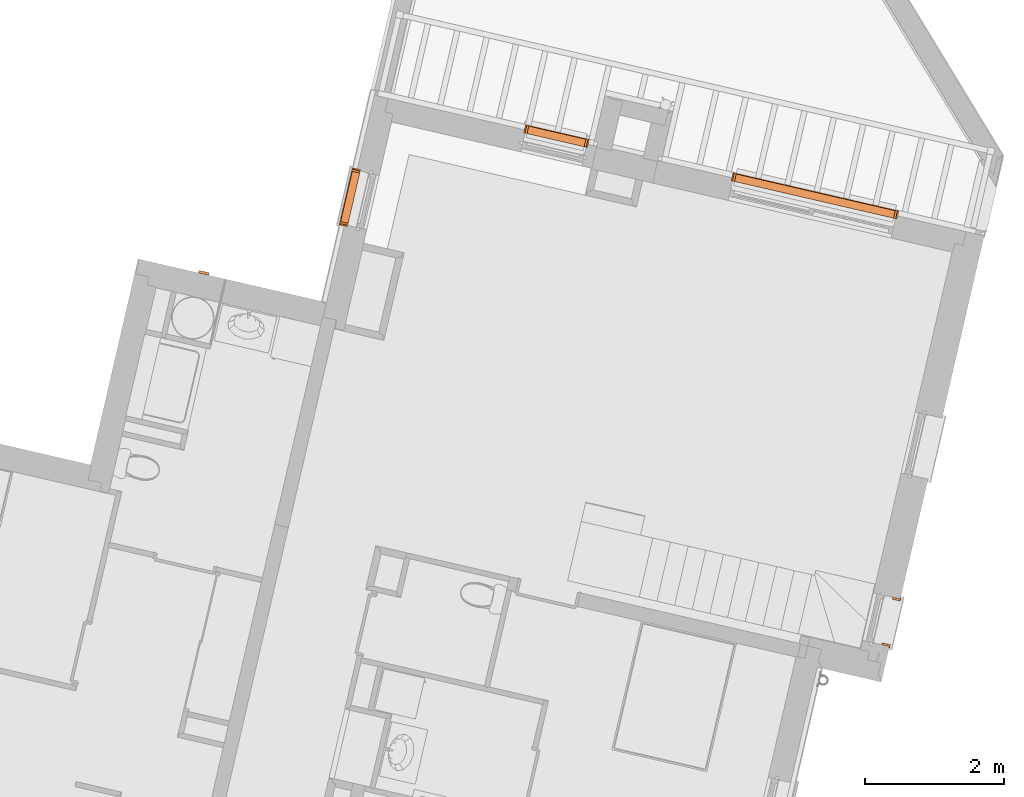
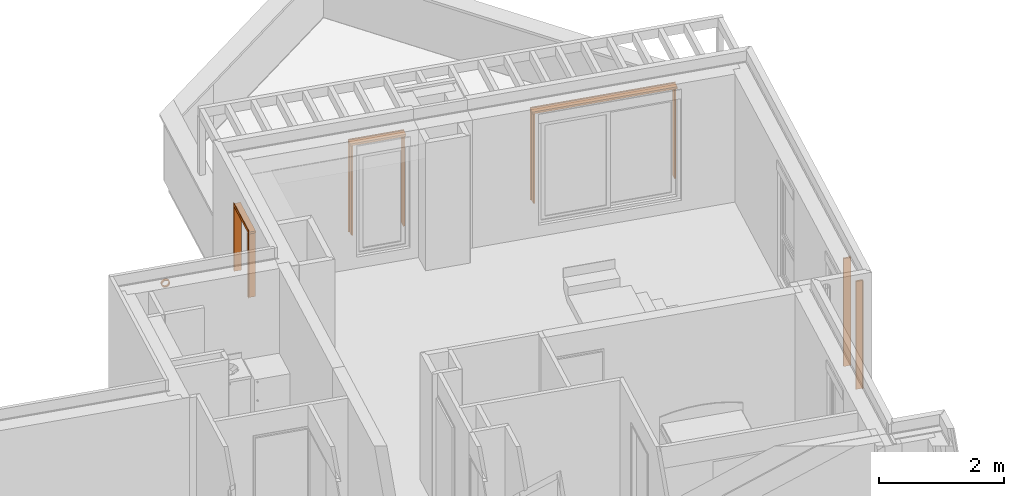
# One storey, part 58 of 62: 12 proxies.
"""IFC2X3 building model written with IfcOpenShell, lengths in metres."""

from ifc_helpers import new_model, entity, si_unit, converted_unit, derived_unit, money_unit, direction, frame, origin_with_axes, place, context, subcontext, project, spatial, faceted_brep, source, transform, mapped, material, type_object, element, save


model = new_model("IFC2X3")

# Units and contexts
model_context = context("Model", 3, precision=1e-05, world=origin_with_axes(), true_north=direction((0.0, 1.0)))
body_context = subcontext(model_context, "Body", "Model", "MODEL_VIEW")
ifc_project = project(units=[si_unit("LENGTHUNIT", "METRE"), si_unit("AREAUNIT", "SQUARE_METRE"), si_unit("VOLUMEUNIT", "CUBIC_METRE"), converted_unit("PLANEANGLEUNIT", "DEGREE", entity("IfcPlaneAngleMeasure", 0.0174532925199), si_unit("PLANEANGLEUNIT", "RADIAN"), dimensions=[0, 0, 0, 0, 0, 0, 0]), si_unit("SOLIDANGLEUNIT", "STERADIAN"), money_unit("EUR"), converted_unit("TIMEUNIT", "Year", entity("IfcTimeMeasure", 31556926.0), si_unit("TIMEUNIT", "SECOND"), dimensions=[0, 0, 1, 0, 0, 0, 0]), si_unit("MASSUNIT", "GRAM", prefix="KILO"), si_unit("THERMODYNAMICTEMPERATUREUNIT", "DEGREE_CELSIUS"), si_unit("LUMINOUSINTENSITYUNIT", "LUMEN"), si_unit("ENERGYUNIT", "JOULE", prefix="MEGA"), derived_unit("THERMALCONDUCTANCEUNIT", [(si_unit("POWERUNIT", "WATT"), 1), (si_unit("LENGTHUNIT", "METRE"), -1), (si_unit("THERMODYNAMICTEMPERATUREUNIT", "KELVIN"), -1)]), derived_unit("SPECIFICHEATCAPACITYUNIT", [(si_unit("ENERGYUNIT", "JOULE"), 1), (si_unit("MASSUNIT", "GRAM", prefix="KILO"), -1), (si_unit("THERMODYNAMICTEMPERATUREUNIT", "KELVIN"), -1)]), derived_unit("MASSDENSITYUNIT", [(si_unit("MASSUNIT", "GRAM", prefix="KILO"), 1), (si_unit("VOLUMEUNIT", "CUBIC_METRE"), -1)])], contexts=[model_context])

# Site, building, storey
site_placement = place(None, origin_with_axes())
site = spatial("IfcSite", under=ifc_project, at=site_placement, Name="Site", CompositionType="ELEMENT")
building_placement = place(site_placement, origin_with_axes())
building = spatial("IfcBuilding", under=site, at=building_placement, Name="Bâtiment", CompositionType="ELEMENT")
storey_placement = place(building_placement, frame((0.0, 0.0, 8.16), z_axis=(0.0, 0.0, 1.0), x_axis=(1.0, 0.0, 0.0)))
storey = spatial("IfcBuildingStorey", under=building, at=storey_placement, Name="R+3", CompositionType="ELEMENT", Elevation=8.16)

# Proxies
building_element_proxy_type_1 = type_object("IfcBuildingElementProxyType", Name="Tube évidé 23", PredefinedType="NOTDEFINED")
shared_shape_1 = source(origin_with_axes(), body_context, "Body", "Brep", [
    faceted_brep([(0.0, 0.0, -0.075), (0.0, 0.0194114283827, -0.0724444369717), (0.0, 0.0375, -0.0649519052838), (0.0, 0.053033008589, -0.053033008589), (0.0, 0.0649519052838, -0.0375), (0.0, 0.0724444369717, -0.0194114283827), (0.0, 0.075, 0.0), (0.0, 0.0724444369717, 0.0194114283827), (0.0, 0.0649519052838, 0.0375), (0.0, 0.053033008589, 0.053033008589), (0.0, 0.0375, 0.0649519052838), (0.0, 0.0194114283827, 0.0724444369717), (0.0, 0.0, 0.075), (0.0, -0.0194114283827, 0.0724444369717), (0.0, -0.0375, 0.0649519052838), (0.0, -0.053033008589, 0.053033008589), (0.0, -0.0649519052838, 0.0375), (0.0, -0.0724444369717, 0.0194114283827), (0.0, -0.075, 0.0), (0.0, -0.0724444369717, -0.0194114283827), (0.0, -0.0649519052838, -0.0375), (0.0, -0.053033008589, -0.053033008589), (0.0, -0.0375, -0.0649519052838), (0.0, -0.0194114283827, -0.0724444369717), (0.0, -0.0275, -0.0476313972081), (0.0, -0.0388908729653, -0.0388908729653), (0.0, -0.0476313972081, -0.0275), (0.0, -0.0531259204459, -0.0142350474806), (0.0, -0.055, 0.0), (0.0, -0.0531259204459, 0.0142350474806), (0.0, -0.0476313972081, 0.0275), (0.0, -0.0388908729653, 0.0388908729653), (0.0, -0.0275, 0.0476313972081), (0.0, -0.0142350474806, 0.0531259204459), (0.0, 0.0, 0.055), (0.0, 0.0142350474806, 0.0531259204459), (0.0, 0.0275, 0.0476313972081), (0.0, 0.0388908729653, 0.0388908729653), (0.0, 0.0476313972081, 0.0275), (0.0, 0.0531259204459, 0.0142350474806), (0.0, 0.055, 0.0), (0.0, 0.0531259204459, -0.0142350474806), (0.0, 0.0476313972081, -0.0275), (0.0, 0.0388908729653, -0.0388908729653), (0.0, 0.0275, -0.0476313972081), (0.0, 0.0142350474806, -0.0531259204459), (0.0, 0.0, -0.055), (0.0, -0.0142350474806, -0.0531259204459), (-0.0368596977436, 0.0, -0.075), (-0.0368596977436, 0.0194114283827, -0.0724444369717), (-0.0368596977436, 0.0375, -0.0649519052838), (-0.0368596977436, 0.053033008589, -0.053033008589), (-0.0368596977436, 0.0649519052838, -0.0375), (-0.0368596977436, 0.0724444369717, -0.0194114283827), (-0.0368596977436, 0.075, 0.0), (-0.0368596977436, 0.0724444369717, 0.0194114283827), (-0.0368596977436, 0.0649519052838, 0.0375), (-0.0368596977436, 0.053033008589, 0.053033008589), (-0.0368596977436, 0.0375, 0.0649519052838), (-0.0368596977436, 0.0194114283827, 0.0724444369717), (-0.0368596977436, 0.0, 0.075), (-0.0368596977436, -0.0194114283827, 0.0724444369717), (-0.0368596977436, -0.0375, 0.0649519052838), (-0.0368596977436, -0.053033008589, 0.053033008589), (-0.0368596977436, -0.0649519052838, 0.0375), (-0.0368596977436, -0.0724444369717, 0.0194114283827), (-0.0368596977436, -0.075, 0.0), (-0.0368596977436, -0.0724444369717, -0.0194114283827), (-0.0368596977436, -0.0649519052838, -0.0375), (-0.0368596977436, -0.053033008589, -0.053033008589), (-0.0368596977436, -0.0375, -0.0649519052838), (-0.0368596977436, -0.0194114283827, -0.0724444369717), (-0.0368596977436, -0.0388908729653, -0.0388908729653), (-0.0368596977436, -0.0275, -0.0476313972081), (-0.0368596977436, -0.0476313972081, -0.0275), (-0.0368596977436, -0.0531259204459, -0.0142350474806), (-0.0368596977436, -0.055, 0.0), (-0.0368596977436, -0.0531259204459, 0.0142350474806), (-0.0368596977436, -0.0476313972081, 0.0275), (-0.0368596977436, -0.0388908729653, 0.0388908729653), (-0.0368596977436, -0.0275, 0.0476313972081), (-0.0368596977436, -0.0142350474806, 0.0531259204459), (-0.0368596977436, 0.0, 0.055), (-0.0368596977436, 0.0142350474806, 0.0531259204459), (-0.0368596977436, 0.0275, 0.0476313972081), (-0.0368596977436, 0.0388908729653, 0.0388908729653), (-0.0368596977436, 0.0476313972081, 0.0275), (-0.0368596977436, 0.0531259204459, 0.0142350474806), (-0.0368596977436, 0.055, 0.0), (-0.0368596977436, 0.0531259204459, -0.0142350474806), (-0.0368596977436, 0.0476313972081, -0.0275), (-0.0368596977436, 0.0388908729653, -0.0388908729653), (-0.0368596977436, 0.0275, -0.0476313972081), (-0.0368596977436, 0.0142350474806, -0.0531259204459), (-0.0368596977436, 0.0, -0.055), (-0.0368596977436, -0.0142350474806, -0.0531259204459)], [[[0, 1, 2, 3, 4, 5, 6, 7, 8, 9, 10, 11, 12, 13, 14, 15, 16, 17, 18, 19, 20, 21, 22, 23], [24, 25, 26, 27, 28, 29, 30, 31, 32, 33, 34, 35, 36, 37, 38, 39, 40, 41, 42, 43, 44, 45, 46, 47]], [[48, 49, 1, 0]], [[49, 50, 2, 1]], [[50, 51, 3, 2]], [[51, 52, 4, 3]], [[52, 53, 5, 4]], [[53, 54, 6, 5]], [[54, 55, 7, 6]], [[55, 56, 8, 7]], [[56, 57, 9, 8]], [[57, 58, 10, 9]], [[58, 59, 11, 10]], [[59, 60, 12, 11]], [[60, 61, 13, 12]], [[61, 62, 14, 13]], [[62, 63, 15, 14]], [[63, 64, 16, 15]], [[64, 65, 17, 16]], [[65, 66, 18, 17]], [[66, 67, 19, 18]], [[67, 68, 20, 19]], [[68, 69, 21, 20]], [[69, 70, 22, 21]], [[70, 71, 23, 22]], [[71, 48, 0, 23]], [[72, 25, 24, 73]], [[74, 26, 25, 72]], [[75, 27, 26, 74]], [[76, 28, 27, 75]], [[77, 29, 28, 76]], [[78, 30, 29, 77]], [[79, 31, 30, 78]], [[80, 32, 31, 79]], [[81, 33, 32, 80]], [[82, 34, 33, 81]], [[83, 35, 34, 82]], [[84, 36, 35, 83]], [[85, 37, 36, 84]], [[86, 38, 37, 85]], [[87, 39, 38, 86]], [[88, 40, 39, 87]], [[89, 41, 40, 88]], [[90, 42, 41, 89]], [[91, 43, 42, 90]], [[92, 44, 43, 91]], [[93, 45, 44, 92]], [[94, 46, 45, 93]], [[95, 47, 46, 94]], [[73, 24, 47, 95]], [[70, 69, 68, 67, 66, 65, 64, 63, 62, 61, 60, 59, 58, 57, 56, 55, 54, 53, 52, 51, 50, 49, 48, 71], [92, 91, 90, 89, 88, 87, 86, 85, 84, 83, 82, 81, 80, 79, 78, 77, 76, 75, 74, 72, 73, 95, 94, 93]]]),
])
proxy_1_placement = place(storey_placement, frame((-9.94778968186, 12.2079923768, 2.35), z_axis=(0.0, 0.0, 1.0), x_axis=(-0.224876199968, -0.974387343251, 0.0)))
element("IfcBuildingElementProxy", 1, at=proxy_1_placement, inside=storey, type_object=building_element_proxy_type_1, Name="MOB-003", context=body_context, shape_type="MappedRepresentation", body=[
    mapped(shared_shape_1, transform((0.0, 0.0, 0.0))),
])
ifc_material = material(Name="Volume - Etude")
building_element_proxy_type_2 = type_object("IfcBuildingElementProxyType", Name="Volume - Etude", PredefinedType="NOTDEFINED")
shared_shape_2 = source(origin_with_axes(), body_context, "Body", "Brep", [
    faceted_brep([(-0.0774534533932, -0.0178752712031, -0.780796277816), (-0.0774534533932, -0.0178752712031, 0.974203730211), (-0.07070717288, -0.047106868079, 0.974203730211), (-0.07070717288, -0.047106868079, -0.780796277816), (-0.185133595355, -0.0427264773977, -0.780796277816), (-0.185133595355, -0.0427264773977, 0.974203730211), (-0.189631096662, -0.023238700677, 0.974203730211), (-0.199337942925, -0.0254789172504, 0.974203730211), (-0.188094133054, -0.0741982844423, 0.974203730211), (-0.188094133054, -0.0741982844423, -0.780796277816), (-0.199337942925, -0.0254789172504, -0.780796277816), (-0.189631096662, -0.023238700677, -0.780796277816)], [[[0, 1, 2, 3]], [[0, 4, 5, 1]], [[1, 5, 6, 7, 8, 2]], [[2, 8, 9, 3]], [[3, 9, 10, 11, 4, 0]], [[5, 4, 11, 6]], [[11, 10, 7, 6]], [[8, 7, 10, 9]]]),
])
for number, where, z_axis, x_axis, name in (
    (2, (-4.47991190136, 13.9485500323, 1.23579627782), (0.0, 0.0, 1.0), (-0.438232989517, -0.89886141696, 0.0), "Forme-009"),
    (3, (-0.0437657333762, 12.9247439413, 1.23579627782), (0.0, 0.0, 1.0), (-0.438233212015, -0.898861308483, 0.0), "Forme-009"),
):
    element("IfcBuildingElementProxy", number, at=place(storey_placement, frame(where, z_axis=z_axis, x_axis=x_axis)), inside=storey, type_object=building_element_proxy_type_2, material=ifc_material, Name=name, context=body_context, shape_type="MappedRepresentation", body=[
        mapped(shared_shape_2, transform((0.0, 0.0, 0.0))),
    ])
shared_shape_3 = source(origin_with_axes(), body_context, "Body", "Brep", [
    faceted_brep([(0.0774534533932, -0.0178752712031, -0.780796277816), (0.07070717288, -0.047106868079, -0.780796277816), (0.07070717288, -0.047106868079, 0.974203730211), (0.0774534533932, -0.0178752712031, 0.974203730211), (0.185133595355, -0.0427264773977, -0.780796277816), (0.189631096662, -0.023238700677, -0.780796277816), (0.199337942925, -0.0254789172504, -0.780796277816), (0.188094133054, -0.0741982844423, -0.780796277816), (0.188094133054, -0.0741982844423, 0.974203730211), (0.199337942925, -0.0254789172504, 0.974203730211), (0.189631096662, -0.023238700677, 0.974203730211), (0.185133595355, -0.0427264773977, 0.974203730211)], [[[0, 1, 2, 3]], [[1, 0, 4, 5, 6, 7]], [[2, 1, 7, 8]], [[3, 2, 8, 9, 10, 11]], [[0, 3, 11, 4]], [[11, 10, 5, 4]], [[5, 10, 9, 6]], [[8, 7, 6, 9]]]),
])
for number, where, z_axis, x_axis, name in (
    (4, (-5.35686052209, 14.1509385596, 1.23579627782), (0.0, 0.0, 1.0), (-5.77208540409e-08, 1.0, 0.0), "Forme-009"),
    (5, (-2.38229525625, 13.4644472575, 1.23579627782), (0.0, 0.0, 1.0), (1.89812221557e-07, 1.0, 0.0), "Forme-009"),
):
    element("IfcBuildingElementProxy", number, at=place(storey_placement, frame(where, z_axis=z_axis, x_axis=x_axis)), inside=storey, type_object=building_element_proxy_type_2, material=ifc_material, Name=name, context=body_context, shape_type="MappedRepresentation", body=[
        mapped(shared_shape_3, transform((0.0, 0.0, 0.0))),
    ])
shared_shape_4 = source(origin_with_axes(), body_context, "Body", "Brep", [
    faceted_brep([(0.0774534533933, -0.0178752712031, -1.14206550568), (0.07070717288, -0.047106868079, -1.14206550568), (0.07070717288, -0.047106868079, 0.974203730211), (0.0774534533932, -0.0178752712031, 0.974203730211), (0.185133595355, -0.0427264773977, -1.14206550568), (0.189631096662, -0.023238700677, -1.14206550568), (0.199337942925, -0.0254789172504, -1.14206550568), (0.188094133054, -0.0741982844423, -1.14206550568), (0.188094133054, -0.0741982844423, 0.974203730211), (0.199337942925, -0.0254789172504, 0.974203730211), (0.189631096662, -0.023238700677, 0.974203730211), (0.185133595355, -0.0427264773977, 0.974203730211)], [[[0, 1, 2, 3]], [[1, 0, 4, 5, 6, 7]], [[2, 1, 7, 8]], [[3, 2, 8, 9, 10, 11]], [[0, 3, 11, 4]], [[11, 10, 5, 4]], [[5, 10, 9, 6]], [[8, 7, 6, 9]]]),
])
proxy_2_placement = place(storey_placement, frame((-0.143039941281, 7.59270478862, 1.23579627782), z_axis=(0.0, 0.0, 1.0), x_axis=(1.0, -2.98956044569e-09, 0.0)))
element("IfcBuildingElementProxy", 6, at=proxy_2_placement, inside=storey, type_object=building_element_proxy_type_2, material=ifc_material, Name="Forme-009", context=body_context, shape_type="MappedRepresentation", body=[
    mapped(shared_shape_4, transform((0.0, 0.0, 0.0))),
])
shared_shape_5 = source(origin_with_axes(), body_context, "Body", "Brep", [
    faceted_brep([(-0.199337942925, -0.0254789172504, -1.14206550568), (-0.188094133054, -0.0741982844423, -1.14206550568), (-0.188094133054, -0.0741982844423, 0.974203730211), (-0.199337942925, -0.0254789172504, 0.974203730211), (-0.189631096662, -0.023238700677, -1.14206550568), (-0.185133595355, -0.0427264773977, -1.14206550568), (-0.0774534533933, -0.0178752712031, -1.14206550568), (-0.07070717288, -0.047106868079, -1.14206550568), (-0.07070717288, -0.047106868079, 0.974203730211), (-0.0774534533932, -0.0178752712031, 0.974203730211), (-0.185133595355, -0.0427264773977, 0.974203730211), (-0.189631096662, -0.023238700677, 0.974203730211)], [[[0, 1, 2, 3]], [[1, 0, 4, 5, 6, 7]], [[1, 7, 8, 2]], [[3, 2, 8, 9, 10, 11]], [[4, 0, 3, 11]], [[4, 11, 10, 5]], [[10, 9, 6, 5]], [[6, 9, 8, 7]]]),
])
proxy_3_placement = place(storey_placement, frame((-0.300453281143, 6.91063364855, 1.23579627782), z_axis=(0.0, 0.0, 1.0), x_axis=(-0.898861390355, 0.438233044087, 0.0)))
element("IfcBuildingElementProxy", 7, at=proxy_3_placement, inside=storey, type_object=building_element_proxy_type_2, material=ifc_material, Name="Forme-009", context=body_context, shape_type="MappedRepresentation", body=[
    mapped(shared_shape_5, transform((0.0, 0.0, 0.0))),
])
shared_shape_6 = source(origin_with_axes(), body_context, "Body", "Brep", [
    faceted_brep([(0.00728521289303, -0.504161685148, 0.0200000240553), (-0.00242163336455, -0.501921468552, 0.0200000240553), (-0.00242160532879, -0.501921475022, 0.0), (-0.110101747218, -0.477070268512, 0.0), (-0.110101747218, -0.477070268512, -0.0399999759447), (0.00728521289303, -0.504161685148, -0.0399999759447), (0.555983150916, 1.87334347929, 0.0200000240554), (0.546276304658, 1.87558369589, 0.0200000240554), (0.546276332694, 1.87558368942, 0.0), (0.438596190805, 1.90043489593, 0.0), (0.438596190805, 1.90043489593, -0.0399999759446), (0.555983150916, 1.87334347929, -0.0399999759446)], [[[0, 1, 2, 3, 4, 5]], [[1, 0, 6, 7]], [[2, 1, 7, 8]], [[3, 2, 8, 9]], [[4, 3, 9, 10]], [[5, 4, 10, 11]], [[0, 5, 11, 6]], [[8, 7, 6, 11, 10, 9]]]),
])
proxy_4_placement = place(storey_placement, frame((-0.483472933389, 13.1078016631, 2.25000000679), z_axis=(0.0, 0.0, 1.0), x_axis=(1.89812221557e-07, 1.0, 0.0)))
element("IfcBuildingElementProxy", 8, at=proxy_4_placement, inside=storey, type_object=building_element_proxy_type_2, material=ifc_material, Name="Forme-010", context=body_context, shape_type="MappedRepresentation", body=[
    mapped(shared_shape_6, transform((0.0, 0.0, 0.0))),
])
shared_shape_7 = source(origin_with_axes(), body_context, "Body", "Brep", [
    faceted_brep([(0.0774534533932, -0.0178752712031, -0.174224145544), (0.07070717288, -0.047106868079, -0.174224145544), (0.07070717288, -0.047106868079, 1.07420373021), (0.0774534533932, -0.0178752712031, 1.07420373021), (0.185133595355, -0.0427264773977, -0.174224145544), (0.189631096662, -0.023238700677, -0.174224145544), (0.199337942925, -0.0254789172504, -0.174224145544), (0.188094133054, -0.0741982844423, -0.174224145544), (0.188094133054, -0.0741982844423, 1.07420373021), (0.199337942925, -0.0254789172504, 1.07420373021), (0.189631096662, -0.023238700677, 1.07420373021), (0.185133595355, -0.0427264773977, 1.07420373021)], [[[0, 1, 2, 3]], [[1, 0, 4, 5, 6, 7]], [[2, 1, 7, 8]], [[3, 2, 8, 9, 10, 11]], [[0, 3, 11, 4]], [[11, 10, 5, 4]], [[5, 10, 9, 6]], [[8, 7, 6, 9]]]),
])
proxy_5_placement = place(storey_placement, frame((-7.80366443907, 12.8888409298, 1.12579629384), z_axis=(0.0, 0.0, 1.0), x_axis=(-1.0, 0.0, 0.0)))
element("IfcBuildingElementProxy", 9, at=proxy_5_placement, inside=storey, type_object=building_element_proxy_type_2, material=ifc_material, Name="Forme-009", context=body_context, shape_type="MappedRepresentation", body=[
    mapped(shared_shape_7, transform((0.0, 0.0, 0.0))),
])
shared_shape_8 = source(origin_with_axes(), body_context, "Body", "Brep", [
    faceted_brep([(-0.344599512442, 0.957419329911, 0.0200000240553), (-0.344599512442, 0.957419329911, -0.0399999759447), (-0.227212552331, 0.984510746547, -0.0399999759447), (-0.227212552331, 0.984510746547, 0.0), (-0.33489269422, 0.959659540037, 0.0), (-0.334892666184, 0.959659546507, 0.0200000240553), (-0.555983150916, 1.87334347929, 0.0200000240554), (-0.555983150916, 1.87334347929, -0.0399999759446), (-0.438596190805, 1.90043489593, -0.0399999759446), (-0.438596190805, 1.90043489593, 0.0), (-0.546276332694, 1.87558368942, 0.0), (-0.546276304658, 1.87558369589, 0.0200000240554)], [[[0, 1, 2, 3, 4, 5]], [[0, 6, 7, 1]], [[1, 7, 8, 2]], [[2, 8, 9, 3]], [[3, 9, 10, 4]], [[4, 10, 11, 5]], [[5, 11, 6, 0]], [[10, 9, 8, 7, 6, 11]]]),
])
proxy_6_placement = place(storey_placement, frame((-6.34298379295, 14.4601020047, 2.25000000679), z_axis=(0.0, 0.0, 1.0), x_axis=(-0.438232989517, -0.89886141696, 0.0)))
element("IfcBuildingElementProxy", 10, at=proxy_6_placement, inside=storey, type_object=building_element_proxy_type_2, material=ifc_material, Name="Forme-010", context=body_context, shape_type="MappedRepresentation", body=[
    mapped(shared_shape_8, transform((0.0, 0.0, 0.0))),
])
shared_shape_9 = source(origin_with_axes(), body_context, "Body", "Brep", [
    faceted_brep([(0.367087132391, 1.05485806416, 0.0200000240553), (0.357380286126, 1.05709828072, 0.0200000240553), (0.357380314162, 1.05709827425, 0.0), (0.249700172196, 1.08194948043, 0.0), (0.249700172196, 1.08194948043, -0.0399999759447), (0.367087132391, 1.05485806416, -0.0399999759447), (0.555983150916, 1.87334347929, 0.0200000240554), (0.546276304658, 1.87558369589, 0.0200000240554), (0.546276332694, 1.87558368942, 0.0), (0.438596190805, 1.90043489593, 0.0), (0.438596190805, 1.90043489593, -0.0399999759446), (0.555983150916, 1.87334347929, -0.0399999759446)], [[[0, 1, 2, 3, 4, 5]], [[1, 0, 6, 7]], [[2, 1, 7, 8]], [[3, 2, 8, 9]], [[4, 3, 9, 10]], [[5, 4, 10, 11]], [[0, 5, 11, 6]], [[8, 7, 6, 11, 10, 9]]]),
])
proxy_7_placement = place(storey_placement, frame((-7.44701919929, 14.7876633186, 2.25000000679), z_axis=(0.0, 0.0, 1.0), x_axis=(-1.0, 3.15500906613e-09, 0.0)))
element("IfcBuildingElementProxy", 11, at=proxy_7_placement, inside=storey, type_object=building_element_proxy_type_2, material=ifc_material, Name="Forme-010", context=body_context, shape_type="MappedRepresentation", body=[
    mapped(shared_shape_9, transform((0.0, 0.0, 0.0))),
])
shared_shape_10 = source(origin_with_axes(), body_context, "Body", "Brep", [
    faceted_brep([(-0.0774534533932, -0.0178752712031, -0.174224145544), (-0.0774534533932, -0.0178752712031, 1.07420373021), (-0.07070717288, -0.047106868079, 1.07420373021), (-0.07070717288, -0.047106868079, -0.174224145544), (-0.185133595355, -0.0427264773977, -0.174224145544), (-0.185133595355, -0.0427264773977, 1.07420373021), (-0.189631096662, -0.023238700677, 1.07420373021), (-0.199337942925, -0.0254789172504, 1.07420373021), (-0.188094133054, -0.0741982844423, 1.07420373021), (-0.188094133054, -0.0741982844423, -0.174224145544), (-0.199337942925, -0.0254789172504, -0.174224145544), (-0.189631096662, -0.023238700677, -0.174224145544)], [[[0, 1, 2, 3]], [[0, 4, 5, 1]], [[1, 5, 6, 7, 8, 2]], [[2, 8, 9, 3]], [[3, 9, 10, 11, 4, 0]], [[5, 4, 11, 6]], [[11, 10, 7, 6]], [[8, 7, 10, 9]]]),
])
proxy_8_placement = place(storey_placement, frame((-7.62376347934, 13.6683508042, 1.12579629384), z_axis=(0.0, 0.0, 1.0), x_axis=(0.898861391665, -0.4382330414, 0.0)))
element("IfcBuildingElementProxy", 12, at=proxy_8_placement, inside=storey, type_object=building_element_proxy_type_2, material=ifc_material, Name="Forme-009", context=body_context, shape_type="MappedRepresentation", body=[
    mapped(shared_shape_10, transform((0.0, 0.0, 0.0))),
])

save(model, "model.ifc")
